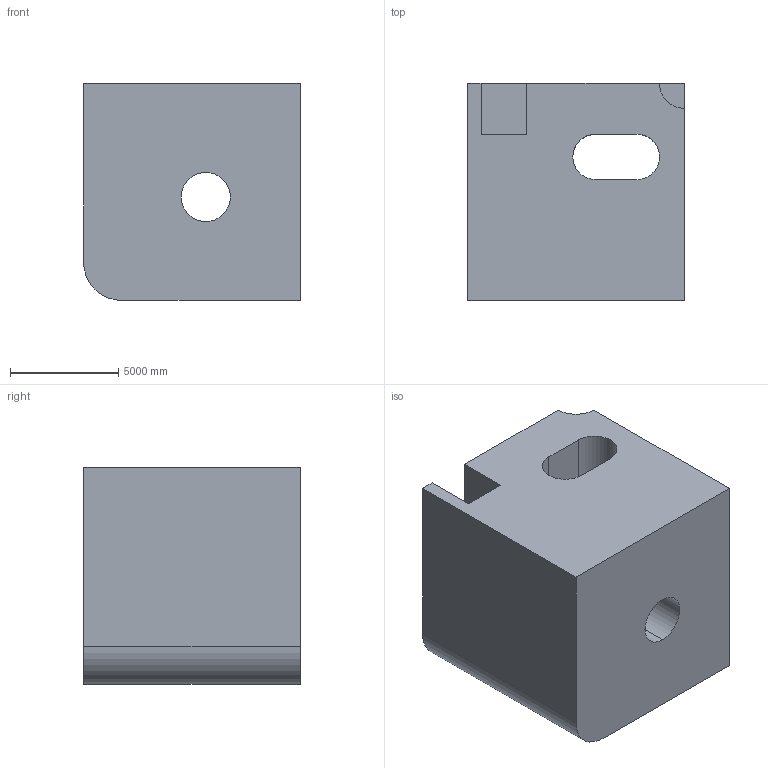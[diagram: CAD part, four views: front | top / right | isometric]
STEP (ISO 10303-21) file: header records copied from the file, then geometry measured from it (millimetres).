
FILE_DESCRIPTION (( 'STEP AP203' ), '1' );
FILE_NAME ('1431.STEP', '2022-08-18T14:25:59', ( 'user' ), ( '' ), 'SwSTEP 2.0', 'SolidWorks 2021', '' );
FILE_SCHEMA (( 'CONFIG_CONTROL_DESIGN' ));
Length unit declared in the file: centimetre
Products named in the file (1): 1431
Bounding box: 10000 x 10000 x 10000 mm (x, y, z)
Volume: 860743063274.9 mm3; surface area: 738140473.7 mm2
Topology: 1 solids, 1 shells, 23 faces, 69 edges, 46 vertices
Faces by surface type: plane 13, cylinder 10
Entity records: 1144 total; most frequent: CARTESIAN_POINT 431, ORIENTED_EDGE 138, DIRECTION 125, EDGE_CURVE 69, VERTEX_POINT 46, VECTOR 45, LINE 45, AXIS2_PLACEMENT_3D 40
